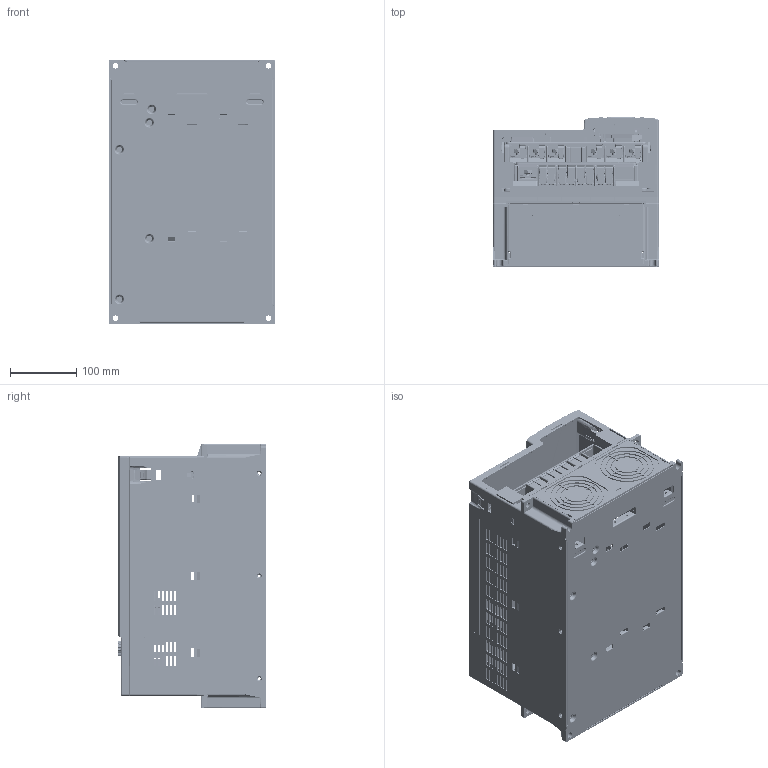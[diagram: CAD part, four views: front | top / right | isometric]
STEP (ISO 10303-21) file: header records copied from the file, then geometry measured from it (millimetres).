
FILE_DESCRIPTION((''),'2;1');
FILE_NAME('VFD-MH300-G-PD-3D00_ASM','2023-12-27T09:11:21',('EDWARD.LIAO'),(''),'CREO PARAMETRIC BY PTC INC, 2022162','CREO PARAMETRIC BY PTC INC, 2022162','');
FILE_SCHEMA(('AUTOMOTIVE_DESIGN { 1 0 10303 214 1 1 1 1 }'));
Products named in the file (200): 0-MH300-G-DESIGN-ASSY_ASM_1_1; 0-MH300-G-DESIGN-ASSY_ASM_174_1; 0-MH300-G-DESIGN-ASSY_ASM_175_1; 0-MH300-G-DESIGN-ASSY_ASM_176_1; 0-MH300-G-DESIGN-ASSY_ASM_178_1; 0-MH300-G-DESIGN-ASSY_ASM_179_1; 0-MH300-G-DESIGN-ASSY_ASM_181_1; 0-MH300-G-DESIGN-ASSY_ASM_182_1; 0-MH300-G-DESIGN-ASSY_ASM_183_1; 0-MH300-G-DESIGN-ASSY_ASM_185_1; 0-MH300-G-DESIGN-ASSY_ASM_187_1; 0-MH300-G-DESIGN-ASSY_ASM_188_1; 0-MH300-G-DESIGN-ASSY_ASM_190_1; 0-MH300-G-DESIGN-ASSY_ASM_191_1; 0-MH300-G-DESIGN-ASSY_ASM_193_1; 0-MH300-G-DESIGN-ASSY_ASM_194_1; 0-MH300-G-DESIGN-ASSY_ASM_195_1; 0-MH300-G-DESIGN-ASSY_ASM_196_1; 0-MH300-G-DESIGN-ASSY_ASM_199_1; 0-MH300-G-DESIGN-ASSY_ASM_200_1; 0-MH300-G-DESIGN-ASSY_ASM_202_1; 0-MH300-G-DESIGN-ASSY_ASM_203_1; 0-MH300-G-DESIGN-ASSY_ASM_204_1; 0-MH300-G-DESIGN-ASSY_ASM_205_1; 0-MH300-G-DESIGN-ASSY_ASM_207_1; 0-MH300-G-DESIGN-ASSY_ASM_209_1; 0-MH300-G-DESIGN-ASSY_ASM_210_1; 0-MH300-G-DESIGN-ASSY_ASM_212_1; 0-MH300-G-DESIGN-ASSY_ASM_213_1; 0-MH300-G-DESIGN-ASSY_ASM_215_1; 0-MH300-G-DESIGN-ASSY_ASM_216_1; 0-MH300-G-DESIGN-ASSY_ASM_218_1; 0-MH300-G-DESIGN-ASSY_ASM_219_1; 0-MH300-G-DESIGN-ASSY_ASM_221_1; 0-MH300-G-DESIGN-ASSY_ASM_222_1; 0-MH300-G-DESIGN-ASSY_ASM_223_1; 0-MH300-G-DESIGN-ASSY_ASM_224_1; 0-MH300-G-DESIGN-ASSY_ASM_227_1; 0-MH300-G-DESIGN-ASSY_ASM_228_1; 0-MH300-G-DESIGN-ASSY_ASM_229_1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
Assembly tree (199 placements, depth 4):
  VFD-MH300-G-PD-3D00_ASM
    0-MH300-G-DESIGN-ASSY_ASM_ASM_1_ASM
      0-MH300-G-DESIGN-ASSY_ASM_1_1
      0-MH300-G-DESIGN-ASSY_ASM_174_1
      0-MH300-G-DESIGN-ASSY_ASM_175_1
      0-MH300-G-DESIGN-ASSY_ASM_176_1
      0-MH300-G-DESIGN-ASSY_ASM_178_1
      0-MH300-G-DESIGN-ASSY_ASM_179_1
      0-MH300-G-DESIGN-ASSY_ASM_181_1
      0-MH300-G-DESIGN-ASSY_ASM_182_1
      0-MH300-G-DESIGN-ASSY_ASM_183_1
      0-MH300-G-DESIGN-ASSY_ASM_185_1
      0-MH300-G-DESIGN-ASSY_ASM_187_1
      0-MH300-G-DESIGN-ASSY_ASM_188_1
      0-MH300-G-DESIGN-ASSY_ASM_190_1
      0-MH300-G-DESIGN-ASSY_ASM_191_1
      0-MH300-G-DESIGN-ASSY_ASM_193_1
      0-MH300-G-DESIGN-ASSY_ASM_194_1
      0-MH300-G-DESIGN-ASSY_ASM_195_1
      0-MH300-G-DESIGN-ASSY_ASM_196_1
      0-MH300-G-DESIGN-ASSY_ASM_199_1
      0-MH300-G-DESIGN-ASSY_ASM_200_1
      0-MH300-G-DESIGN-ASSY_ASM_202_1
      0-MH300-G-DESIGN-ASSY_ASM_203_1
      0-MH300-G-DESIGN-ASSY_ASM_204_1
      0-MH300-G-DESIGN-ASSY_ASM_205_1
      0-MH300-G-DESIGN-ASSY_ASM_207_1
      0-MH300-G-DESIGN-ASSY_ASM_209_1
      0-MH300-G-DESIGN-ASSY_ASM_210_1
      0-MH300-G-DESIGN-ASSY_ASM_212_1
      0-MH300-G-DESIGN-ASSY_ASM_213_1
      0-MH300-G-DESIGN-ASSY_ASM_215_1
      0-MH300-G-DESIGN-ASSY_ASM_216_1
      0-MH300-G-DESIGN-ASSY_ASM_218_1
      0-MH300-G-DESIGN-ASSY_ASM_219_1
      0-MH300-G-DESIGN-ASSY_ASM_221_1
      0-MH300-G-DESIGN-ASSY_ASM_222_1
      0-MH300-G-DESIGN-ASSY_ASM_223_1
      0-MH300-G-DESIGN-ASSY_ASM_224_1
      0-MH300-G-DESIGN-ASSY_ASM_227_1
      0-MH300-G-DESIGN-ASSY_ASM_228_1
      0-MH300-G-DESIGN-ASSY_ASM_229_1
      0-MH300-G-DESIGN-ASSY_ASM_231_1
      0-MH300-G-DESIGN-ASSY_ASM_233_1
      0-MH300-G-DESIGN-ASSY_ASM_234_1
      0-MH300-G-DESIGN-ASSY_ASM_235_1
      0-MH300-G-DESIGN-ASSY_ASM_237_1
      0-MH300-G-DESIGN-ASSY_ASM_239_1
      0-MH300-G-DESIGN-ASSY_ASM_240_1
      0-MH300-G-DESIGN-ASSY_ASM_241_1
      0-MH300-G-DESIGN-ASSY_ASM_242_1
      0-MH300-G-DESIGN-ASSY_ASM_246_1
      0-MH300-G-DESIGN-ASSY_ASM_247_1
      0-MH300-G-DESIGN-ASSY_ASM_248_1
      0-MH300-G-DESIGN-ASSY_ASM_249_1
      0-MH300-G-DESIGN-ASSY_ASM_250_1
      0-MH300-G-DESIGN-ASSY_ASM_251_1
      IO_ASM
        0-MH300-G-DESIGN-ASSY_ASM_2_1
        0-MH300-G-DESIGN-ASSY_ASM_3_1
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Bounding box: 250 x 225 x 400 mm (x, y, z)
Volume: 2120522 mm3; surface area: 1653803.6 mm2
Topology: 195 solids, 207 shells, 29871 faces, 81883 edges, 52281 vertices
Faces by surface type: plane 17291, cylinder 8180, bspline 2320, torus 756, cone 567, extrusion 536, sphere 219, revolution 2
Entity records: 1422126 total; most frequent: CARTESIAN_POINT 429358, ORIENTED_EDGE 162637, DIRECTION 143224, EDGE_CURVE 81593, PRESENTATION_STYLE_ASSIGNMENT 62374, STYLED_ITEM 60473, CURVE_STYLE 55841, VECTOR 55714
